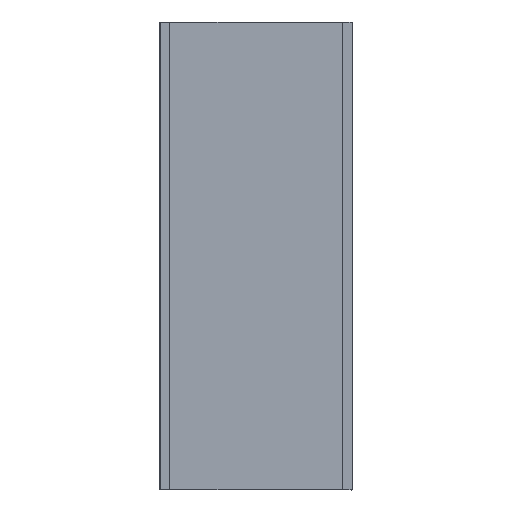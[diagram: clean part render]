
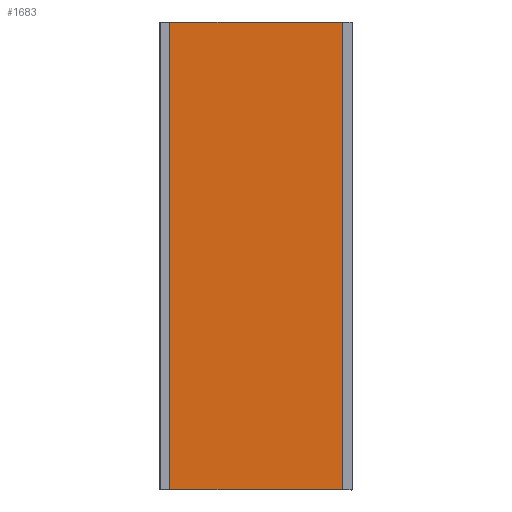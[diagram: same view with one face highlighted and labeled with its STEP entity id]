
A CAD part, top view. The second image highlights one B-rep face of the part: STEP entity #1683.
In plain terms, the highlighted planar face has unit normal (0, 0, 1).
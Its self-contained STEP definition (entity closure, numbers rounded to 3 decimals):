
#49=FACE_OUTER_BOUND('',#133,.T.);
#133=EDGE_LOOP('',(#1217,#1218,#1219,#1220));
#277=LINE('',#2432,#507);
#278=LINE('',#2434,#508);
#279=LINE('',#2436,#509);
#280=LINE('',#2437,#510);
#507=VECTOR('',#2006,10.);
#508=VECTOR('',#2007,10.);
#509=VECTOR('',#2008,10.);
#510=VECTOR('',#2009,10.);
#705=VERTEX_POINT('',#2430);
#706=VERTEX_POINT('',#2431);
#707=VERTEX_POINT('',#2433);
#708=VERTEX_POINT('',#2435);
#891=EDGE_CURVE('',#705,#706,#277,.T.);
#892=EDGE_CURVE('',#706,#707,#278,.T.);
#893=EDGE_CURVE('',#707,#708,#279,.T.);
#894=EDGE_CURVE('',#708,#705,#280,.T.);
#1217=ORIENTED_EDGE('',*,*,#891,.T.);
#1218=ORIENTED_EDGE('',*,*,#892,.T.);
#1219=ORIENTED_EDGE('',*,*,#893,.T.);
#1220=ORIENTED_EDGE('',*,*,#894,.T.);
#1519=PLANE('',#1790);
#1683=ADVANCED_FACE('',(#49),#1519,.T.);
#1790=AXIS2_PLACEMENT_3D('',#2429,#2004,#2005);
#2004=DIRECTION('center_axis',(0.,0.,
1.));
#2005=DIRECTION('ref_axis',(0.,1.,0.));
#2006=DIRECTION('',(-1.,0.,0.));
#2007=DIRECTION('',(0.,-1.,0.));
#2008=DIRECTION('',(1.,0.,0.));
#2009=DIRECTION('',(0.,1.,0.));
#2429=CARTESIAN_POINT('Origin',(-3259.921,2856.741,930.846));
#2430=CARTESIAN_POINT('',(-2959.271,2856.741,930.846));
#2431=CARTESIAN_POINT('',(-3662.893,2856.741,930.846));
#2432=CARTESIAN_POINT('',(-2959.271,2856.741,930.846));
#2433=CARTESIAN_POINT('',(-3662.893,1006.741,930.846));
#2434=CARTESIAN_POINT('',(-3662.893,2856.741,930.846));
#2435=CARTESIAN_POINT('',(-2959.271,1006.741,930.846));
#2436=CARTESIAN_POINT('',(-3662.893,1006.741,930.846));
#2437=CARTESIAN_POINT('',(-2959.271,1006.741,930.846));
